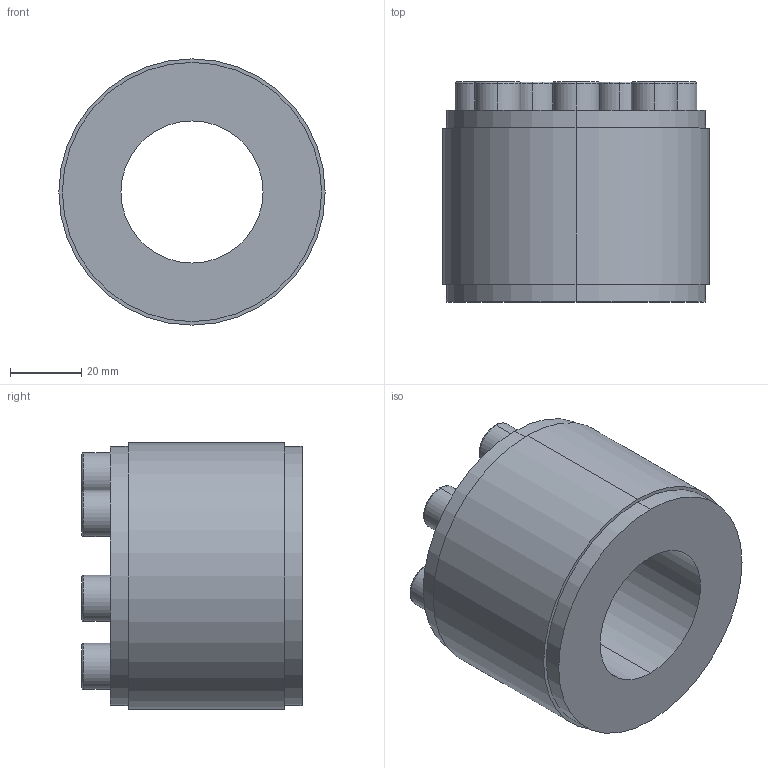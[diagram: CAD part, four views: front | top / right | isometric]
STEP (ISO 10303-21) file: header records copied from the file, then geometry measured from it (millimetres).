
FILE_DESCRIPTION (( 'STEP AP203' ), '1' );
FILE_NAME ('PL-D1 40-75.STEP', '2021-10-23T00:06:11', ( '' ), ( '' ), 'SwSTEP 2.0', 'SolidWorks 2018', '' );
FILE_SCHEMA (( 'CONFIG_CONTROL_DESIGN' ));
Length unit declared in the file: millimetre
Products named in the file (1): PL-D1 40-75
Bounding box: 75 x 62 x 75 mm (x, y, z)
Volume: 174926.5 mm3; surface area: 28575.8 mm2
Topology: 1 solids, 1 shells, 96 faces, 220 edges, 142 vertices
Faces by surface type: plane 60, cylinder 22, torus 14
Entity records: 2785 total; most frequent: DIRECTION 486, CARTESIAN_POINT 459, ORIENTED_EDGE 440, EDGE_CURVE 220, AXIS2_PLACEMENT_3D 169, LINE 148, VECTOR 148, VERTEX_POINT 142
